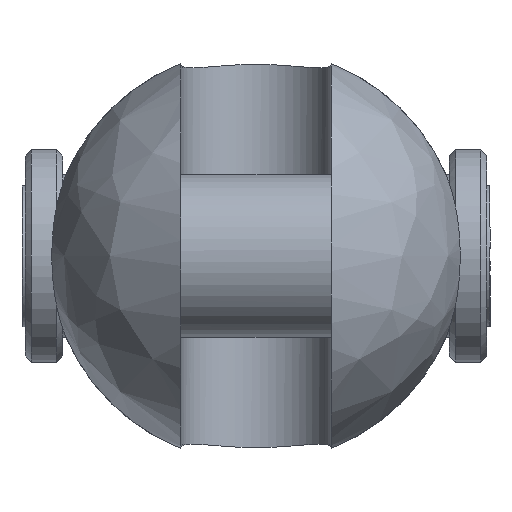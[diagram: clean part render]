
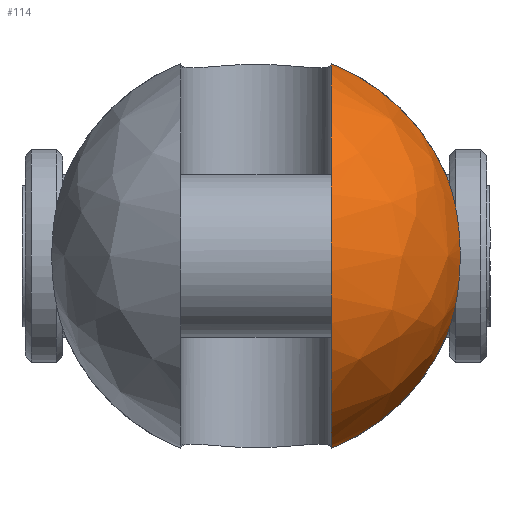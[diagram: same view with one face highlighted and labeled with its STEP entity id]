
A CAD part, left-side view. The second image highlights one B-rep face of the part: STEP entity #114.
In plain terms, the highlighted free-form (B-spline) face has degree [2, 2] with [9, 5] control points.
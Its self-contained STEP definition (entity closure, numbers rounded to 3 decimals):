
#114=ADVANCED_FACE('',(#202),#1535,.T.);
#202=FACE_OUTER_BOUND('',#302,.T.);
#302=EDGE_LOOP('',(#746,#747,#748,#749));
#746=ORIENTED_EDGE('',*,*,#1002,.T.);
#747=ORIENTED_EDGE('',*,*,#999,.F.);
#748=ORIENTED_EDGE('',*,*,#1025,.T.);
#749=ORIENTED_EDGE('',*,*,#993,.F.);
#993=EDGE_CURVE('',#1425,#1426,#1159,.T.);
#999=EDGE_CURVE('',#1433,#1434,#1160,.T.);
#1002=EDGE_CURVE('',#1425,#1434,#1162,.T.);
#1025=EDGE_CURVE('',#1433,#1426,#1273,.T.);
#1159=(
BOUNDED_CURVE()
B_SPLINE_CURVE(2,(#3470,#3471,#3472),.UNSPECIFIED.,.F.,.F.)
B_SPLINE_CURVE_WITH_KNOTS((3,3),(0.,13.18),.UNSPECIFIED.)
CURVE()
GEOMETRIC_REPRESENTATION_ITEM()
RATIONAL_B_SPLINE_CURVE((1.,0.921,1.))
REPRESENTATION_ITEM('')
);
#1160=(
BOUNDED_CURVE()
B_SPLINE_CURVE(2,(#3495,#3496,#3497),.UNSPECIFIED.,.F.,.F.)
B_SPLINE_CURVE_WITH_KNOTS((3,3),(0.,13.18),.UNSPECIFIED.)
CURVE()
GEOMETRIC_REPRESENTATION_ITEM()
RATIONAL_B_SPLINE_CURVE((1.,0.921,1.))
REPRESENTATION_ITEM('')
);
#1162=(
BOUNDED_CURVE()
B_SPLINE_CURVE(2,(#3503,#3504,#3505,#3506,#3507),.UNSPECIFIED.,.F.,.F.)
B_SPLINE_CURVE_WITH_KNOTS((3,2,3),(-48.288,-24.144,
0.),.UNSPECIFIED.)
CURVE()
GEOMETRIC_REPRESENTATION_ITEM()
RATIONAL_B_SPLINE_CURVE((1.,0.707,1.,0.707,1.))
REPRESENTATION_ITEM('')
);
#1273=B_SPLINE_CURVE_WITH_KNOTS('',3,(#3595,#3596,#3597,#3598,#3599,#3600,
#3601,#3602,#3603,#3604,#3605,#3606,#3607,#3608),.UNSPECIFIED.,.F.,.F.,
(4,2,2,2,2,2,4),(-14.389,-13.135,-10.165,
-7.195,-4.224,-1.254,0.),.UNSPECIFIED.);
#1425=VERTEX_POINT('',#3302);
#1426=VERTEX_POINT('',#3303);
#1433=VERTEX_POINT('',#3310);
#1434=VERTEX_POINT('',#3311);
#1535=(
BOUNDED_SURFACE()
B_SPLINE_SURFACE(2,2,((#3174,#3175,#3176,#3177,#3178),(#3179,#3180,#3181,
#3182,#3183),(#3184,#3185,#3186,#3187,#3188),(#3189,#3190,#3191,#3192,#3193),
(#3194,#3195,#3196,#3197,#3198),(#3199,#3200,#3201,#3202,#3203),(#3204,
#3205,#3206,#3207,#3208),(#3209,#3210,#3211,#3212,#3213),(#3214,#3215,#3216,
#3217,#3218)),.UNSPECIFIED.,.T.,.F.,.F.)
B_SPLINE_SURFACE_WITH_KNOTS((3,2,2,2,3),(3,2,3),(0.,1.571,3.142,
4.712,6.283),(-1.571,0.,1.571),
 .UNSPECIFIED.)
GEOMETRIC_REPRESENTATION_ITEM()
RATIONAL_B_SPLINE_SURFACE(((1.,0.707,1.,0.707,1.),
(0.707,0.5,0.707,0.5,0.707),(1.,0.707,
1.,0.707,1.),(0.707,0.5,0.707,0.5,0.707),
(1.,0.707,1.,0.707,1.),(0.707,0.5,0.707,
0.5,0.707),(1.,0.707,1.,0.707,1.),(0.707,
0.5,0.707,0.5,0.707),(1.,0.707,1.,0.707,
1.)))
REPRESENTATION_ITEM('')
SURFACE()
);
#3174=CARTESIAN_POINT('',(-23.5,0.,0.));
#3175=CARTESIAN_POINT('',(-23.5,16.5,0.));
#3176=CARTESIAN_POINT('',(-7.,16.5,0.));
#3177=CARTESIAN_POINT('',(9.5,16.5,0.));
#3178=CARTESIAN_POINT('',(9.5,0.,0.));
#3179=CARTESIAN_POINT('',(-23.5,0.,0.));
#3180=CARTESIAN_POINT('',(-23.5,16.5,16.5));
#3181=CARTESIAN_POINT('',(-7.,16.5,16.5));
#3182=CARTESIAN_POINT('',(9.5,16.5,16.5));
#3183=CARTESIAN_POINT('',(9.5,0.,0.));
#3184=CARTESIAN_POINT('',(-23.5,0.,0.));
#3185=CARTESIAN_POINT('',(-23.5,0.,16.5));
#3186=CARTESIAN_POINT('',(-7.,0.,16.5));
#3187=CARTESIAN_POINT('',(9.5,0.,16.5));
#3188=CARTESIAN_POINT('',(9.5,0.,0.));
#3189=CARTESIAN_POINT('',(-23.5,0.,0.));
#3190=CARTESIAN_POINT('',(-23.5,-16.5,16.5));
#3191=CARTESIAN_POINT('',(-7.,-16.5,16.5));
#3192=CARTESIAN_POINT('',(9.5,-16.5,16.5));
#3193=CARTESIAN_POINT('',(9.5,0.,0.));
#3194=CARTESIAN_POINT('',(-23.5,0.,0.));
#3195=CARTESIAN_POINT('',(-23.5,-16.5,0.));
#3196=CARTESIAN_POINT('',(-7.,-16.5,0.));
#3197=CARTESIAN_POINT('',(9.5,-16.5,0.));
#3198=CARTESIAN_POINT('',(9.5,0.,0.));
#3199=CARTESIAN_POINT('',(-23.5,0.,0.));
#3200=CARTESIAN_POINT('',(-23.5,-16.5,-16.5));
#3201=CARTESIAN_POINT('',(-7.,-16.5,-16.5));
#3202=CARTESIAN_POINT('',(9.5,-16.5,-16.5));
#3203=CARTESIAN_POINT('',(9.5,0.,0.));
#3204=CARTESIAN_POINT('',(-23.5,0.,0.));
#3205=CARTESIAN_POINT('',(-23.5,0.,-16.5));
#3206=CARTESIAN_POINT('',(-7.,0.,-16.5));
#3207=CARTESIAN_POINT('',(9.5,0.,-16.5));
#3208=CARTESIAN_POINT('',(9.5,0.,0.));
#3209=CARTESIAN_POINT('',(-23.5,0.,0.));
#3210=CARTESIAN_POINT('',(-23.5,16.5,-16.5));
#3211=CARTESIAN_POINT('',(-7.,16.5,-16.5));
#3212=CARTESIAN_POINT('',(9.5,16.5,-16.5));
#3213=CARTESIAN_POINT('',(9.5,0.,0.));
#3214=CARTESIAN_POINT('',(-23.5,0.,0.));
#3215=CARTESIAN_POINT('',(-23.5,16.5,0.));
#3216=CARTESIAN_POINT('',(-7.,16.5,0.));
#3217=CARTESIAN_POINT('',(9.5,16.5,0.));
#3218=CARTESIAN_POINT('',(9.5,0.,0.));
#3302=CARTESIAN_POINT('',(-7.,-6.,15.37));
#3303=CARTESIAN_POINT('',(-7.,-15.199,6.423));
#3310=CARTESIAN_POINT('',(-7.,-15.199,-6.423));
#3311=CARTESIAN_POINT('',(-7.,-6.,-15.37));
#3470=CARTESIAN_POINT('',(-7.,-6.,15.37));
#3471=CARTESIAN_POINT('',(-7.,-12.488,12.838));
#3472=CARTESIAN_POINT('',(-7.,-15.199,6.423));
#3495=CARTESIAN_POINT('',(-7.,-15.199,-6.423));
#3496=CARTESIAN_POINT('',(-7.,-12.488,-12.838));
#3497=CARTESIAN_POINT('',(-7.,-6.,-15.37));
#3503=CARTESIAN_POINT('',(-7.,-6.,15.37));
#3504=CARTESIAN_POINT('',(-22.37,-6.,15.37));
#3505=CARTESIAN_POINT('',(-22.37,-6.,0.));
#3506=CARTESIAN_POINT('',(-22.37,-6.,-15.37));
#3507=CARTESIAN_POINT('',(-7.,-6.,-15.37));
#3595=CARTESIAN_POINT('',(-7.,-15.199,-6.423));
#3596=CARTESIAN_POINT('',(-7.269,-15.323,-6.13));
#3597=CARTESIAN_POINT('',(-7.517,-15.435,-5.822));
#3598=CARTESIAN_POINT('',(-8.27,-15.774,-4.764));
#3599=CARTESIAN_POINT('',(-8.735,-15.978,-3.868));
#3600=CARTESIAN_POINT('',(-9.35,-16.246,-1.958));
#3601=CARTESIAN_POINT('',(-9.5,-16.31,-0.944));
#3602=CARTESIAN_POINT('',(-9.5,-16.31,0.944));
#3603=CARTESIAN_POINT('',(-9.35,-16.246,1.958));
#3604=CARTESIAN_POINT('',(-8.735,-15.978,3.868));
#3605=CARTESIAN_POINT('',(-8.27,-15.774,4.764));
#3606=CARTESIAN_POINT('',(-7.517,-15.435,5.822));
#3607=CARTESIAN_POINT('',(-7.269,-15.323,6.13));
#3608=CARTESIAN_POINT('',(-7.,-15.199,6.423));
